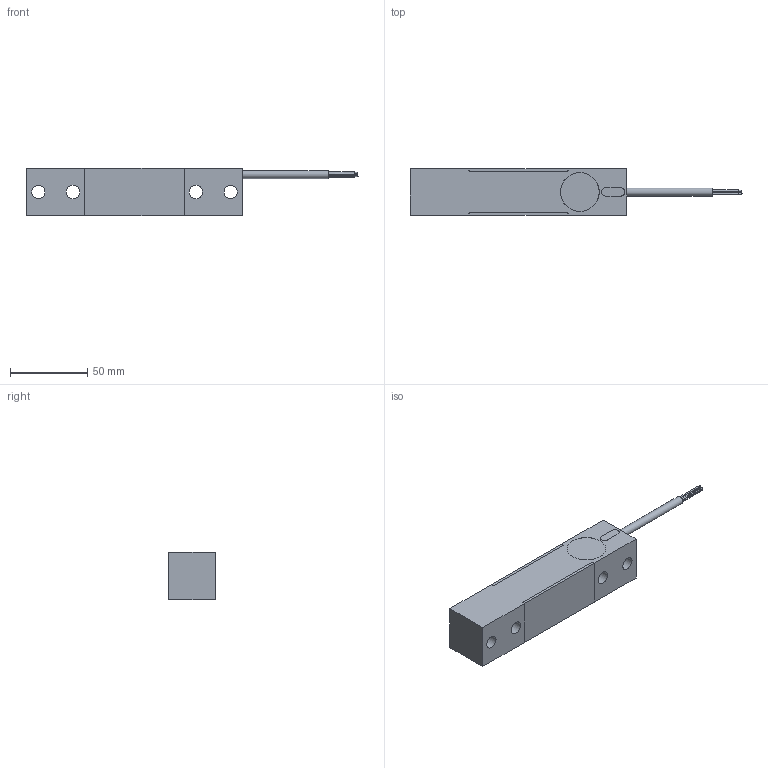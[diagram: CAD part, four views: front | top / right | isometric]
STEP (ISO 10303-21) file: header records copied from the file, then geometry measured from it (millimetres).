
FILE_DESCRIPTION(/* description */ (''),/* implementation_level */ '2;1');
FILE_NAME(/* name */ 'PC3-100-150KG ASSY STEP AP214 v3.step',/* time_stamp */ '2023-08-15T12:02:12+01:00',/* author */ (''),/* organization */ (''),/* preprocessor_version */ 'ST-DEVELOPER v20',/* originating_system */ 'Autodesk Translation Framework v12.9.0.99',/* authorisation */ '');
FILE_SCHEMA (('AUTOMOTIVE_DESIGN { 1 0 10303 214 3 1 1 }'));
Length unit declared in the file: millimetre
Products named in the file (5): PC3-100-150KG ASSY STEP AP214; 0100049; 0100052; 4 cond 24 AWG cable; Component5
Assembly tree (5 placements, depth 2):
  PC3-100-150KG ASSY STEP AP214
    0100049
    0100052  x2
    4 cond 24 AWG cable
    Component5
Bounding box: 214.22 x 30 x 30.8 mm (x, y, z)
Volume: 123721.5 mm3; surface area: 34187.3 mm2
Topology: 5 solids, 5 shells, 91 faces, 219 edges, 146 vertices
Faces by surface type: plane 51, cylinder 35, bspline 5
Full cylindrical faces by diameter (mm): 0.372 x1, 0.429 x1, 0.443 x1, 0.452 x1, 3.2 x2, 3.3 x1, 5.2 x1, 8.5 x4, 25 x2
Entity records: 2882 total; most frequent: CARTESIAN_POINT 687, DIRECTION 456, ORIENTED_EDGE 402, EDGE_CURVE 201, AXIS2_PLACEMENT_3D 176, VERTEX_POINT 134, EDGE_LOOP 107, LINE 104
